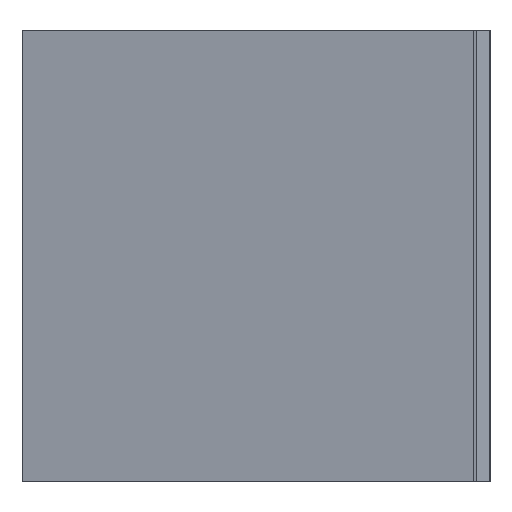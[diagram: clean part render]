
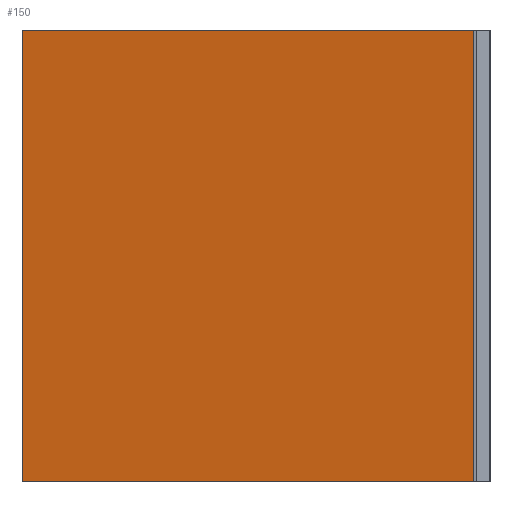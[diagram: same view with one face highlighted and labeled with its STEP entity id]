
A CAD part, left-side view. The second image highlights one B-rep face of the part: STEP entity #150.
In plain terms, the highlighted planar face has unit normal (0.98, -0.199, 0).
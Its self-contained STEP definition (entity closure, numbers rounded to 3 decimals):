
#98=CARTESIAN_POINT('Vertex',(20.,0.,0.)) ;
#101=CARTESIAN_POINT('Line Origine',(20.,0.,66.5)) ;
#105=CARTESIAN_POINT('Vertex',(20.,0.,133.)) ;
#120=CARTESIAN_POINT('Axis2P3D Location',(20.,0.,0.)) ;
#125=CARTESIAN_POINT('Line Origine',(33.5,66.5,0.)) ;
#129=CARTESIAN_POINT('Vertex',(47.,133.,0.)) ;
#132=CARTESIAN_POINT('Line Origine',(47.,133.,66.5)) ;
#136=CARTESIAN_POINT('Vertex',(47.,133.,133.)) ;
#139=CARTESIAN_POINT('Line Origine',(33.5,66.5,133.)) ;
#102=DIRECTION('Vector Direction',(0.,0.,1.)) ;
#121=DIRECTION('Axis2P3D Direction',(0.98,-0.199,0.)) ;
#122=DIRECTION('Axis2P3D XDirection',(0.199,0.98,0.)) ;
#126=DIRECTION('Vector Direction',(0.199,0.98,0.)) ;
#133=DIRECTION('Vector Direction',(0.,0.,1.)) ;
#140=DIRECTION('Vector Direction',(0.199,0.98,0.)) ;
#123=AXIS2_PLACEMENT_3D('Plane Axis2P3D',#120,#121,#122) ;
#145=ORIENTED_EDGE('',*,*,#107,.F.) ;
#146=ORIENTED_EDGE('',*,*,#131,.T.) ;
#147=ORIENTED_EDGE('',*,*,#138,.T.) ;
#148=ORIENTED_EDGE('',*,*,#143,.F.) ;
#103=VECTOR('Line Direction',#102,1.) ;
#127=VECTOR('Line Direction',#126,1.) ;
#134=VECTOR('Line Direction',#133,1.) ;
#141=VECTOR('Line Direction',#140,1.) ;
#150=ADVANCED_FACE('Extrude.1',(#149),#124,.T.) ;
#107=EDGE_CURVE('',#99,#106,#104,.T.) ;
#131=EDGE_CURVE('',#99,#130,#128,.T.) ;
#138=EDGE_CURVE('',#130,#137,#135,.T.) ;
#143=EDGE_CURVE('',#106,#137,#142,.T.) ;
#144=EDGE_LOOP('',(#145,#146,#147,#148)) ;
#149=FACE_OUTER_BOUND('',#144,.T.) ;
#104=LINE('Line',#101,#103) ;
#128=LINE('Line',#125,#127) ;
#135=LINE('Line',#132,#134) ;
#142=LINE('Line',#139,#141) ;
#124=PLANE('',#123) ;
#99=VERTEX_POINT('',#98) ;
#106=VERTEX_POINT('',#105) ;
#130=VERTEX_POINT('',#129) ;
#137=VERTEX_POINT('',#136) ;
